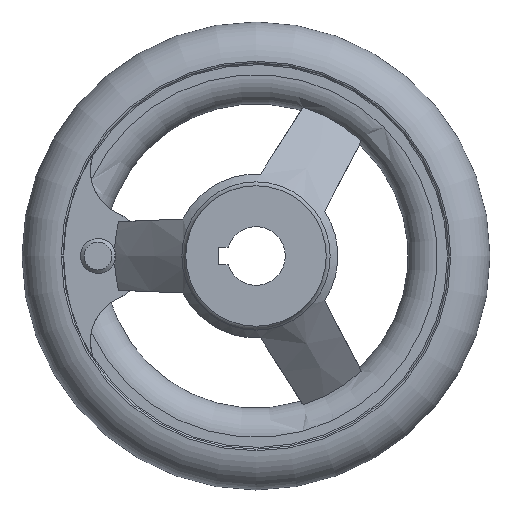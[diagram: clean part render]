
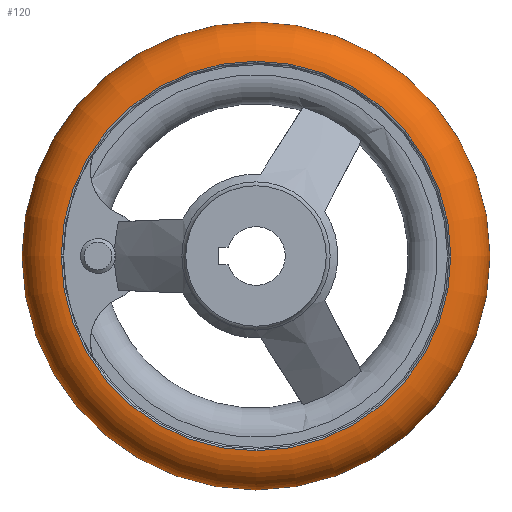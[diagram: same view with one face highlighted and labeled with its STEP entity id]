
A CAD part, left-side view. The second image highlights one B-rep face of the part: STEP entity #120.
In plain terms, the highlighted toroidal (fillet/blend) face has major radius 32.994 mm and minor radius 7.006 mm.
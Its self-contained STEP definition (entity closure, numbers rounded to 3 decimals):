
#120 = ADVANCED_FACE( '', ( #237, #238, #239 ), #240, .T. );
#237 = FACE_BOUND( '', #392, .T. );
#238 = FACE_OUTER_BOUND( '', #393, .T. );
#239 = FACE_OUTER_BOUND( '', #394, .T. );
#240 = TOROIDAL_SURFACE( '', #395, 32.994, 7.006 );
#392 = VERTEX_LOOP( '', #741 );
#393 = EDGE_LOOP( '', ( #742 ) );
#394 = EDGE_LOOP( '', ( #743 ) );
#395 = AXIS2_PLACEMENT_3D( '', #744, #745, #746 );
#741 = VERTEX_POINT( '', #877 );
#742 = ORIENTED_EDGE( '', *, *, #876, .T. );
#743 = ORIENTED_EDGE( '', *, *, #872, .F. );
#744 = CARTESIAN_POINT( '', ( 22., 0., 0. ) );
#745 = DIRECTION( '', ( 1., 0., 0. ) );
#746 = DIRECTION( '', ( 0., 1., 0. ) );
#872 = EDGE_CURVE( '', #1059, #1059, #1060, .T. );
#876 = EDGE_CURVE( '', #1067, #1067, #1068, .T. );
#877 = CARTESIAN_POINT( '', ( 22., 40., 0. ) );
#1059 = VERTEX_POINT( '', #1571 );
#1060 = CIRCLE( '', #1572, 33.292 );
#1067 = VERTEX_POINT( '', #1579 );
#1068 = CIRCLE( '', #1580, 33.292 );
#1571 = CARTESIAN_POINT( '', ( 29., 33.292, 0. ) );
#1572 = AXIS2_PLACEMENT_3D( '', #1764, #1765, #1766 );
#1579 = CARTESIAN_POINT( '', ( 15., 33.292, 0. ) );
#1580 = AXIS2_PLACEMENT_3D( '', #1776, #1777, #1778 );
#1764 = CARTESIAN_POINT( '', ( 29., 0., 0. ) );
#1765 = DIRECTION( '', ( 1., 0., 0. ) );
#1766 = DIRECTION( '', ( 0., 1., 0. ) );
#1776 = CARTESIAN_POINT( '', ( 15., 0., 0. ) );
#1777 = DIRECTION( '', ( 1., 0., 0. ) );
#1778 = DIRECTION( '', ( 0., 1., 0. ) );
